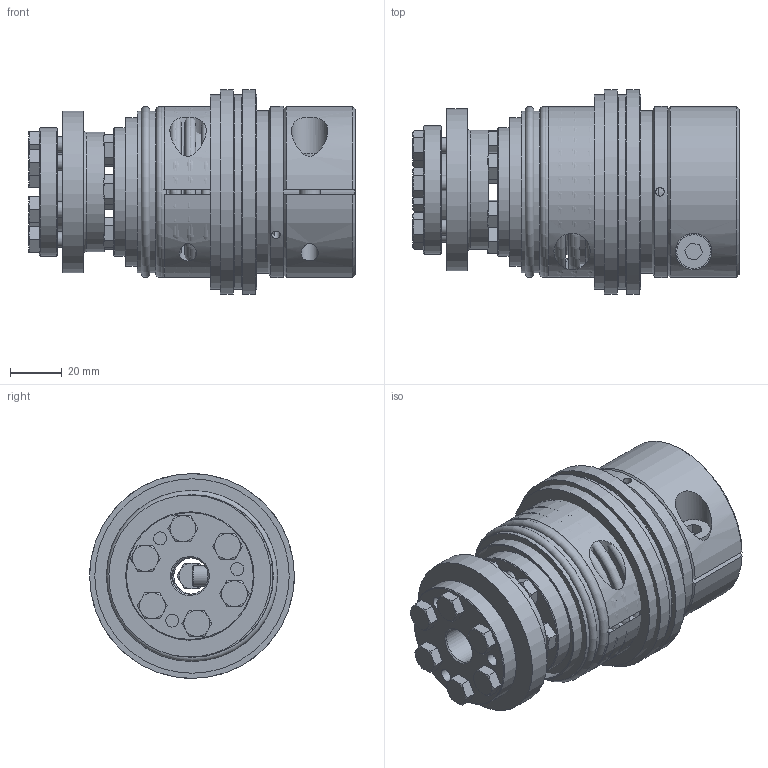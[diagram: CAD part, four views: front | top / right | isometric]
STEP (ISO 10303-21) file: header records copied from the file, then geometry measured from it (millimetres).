
FILE_DESCRIPTION( ( 'Unknown' ), '1' );
FILE_NAME( 'C:/Dokumente und Einstellungen/SKarpstein/Desktop/Korrigierte 3D Modelle/KBK-B-IK/KBK-BIK-60-97.stp', 'Unknown', ( 'Unknown' ), ( 'Unknown' ), 'XStep 1.0', 'Unknown', ' ' );
FILE_SCHEMA( ( 'automotive_design' ) );
Length unit declared in the file: millimetre
Products named in the file (13): Assem1; Assem2; Assem3; Zylinderschraube DIN 912_4; BA60_Standard_2; Hex Screw GradeC_DIN_ISO 4018 - M6 x 20-NN_2; KB60_Standard_0; Stellring 60; Druckring 60; KBK L-K-60 Grundkörper; Klemmnabe 60; Flansch BK60; BK60_Standard_0
Bounding box: 125.76 x 79 x 79 mm (x, y, z)
Volume: 552535.2 mm3; surface area: 250954.6 mm2
Topology: 34 solids, 34 shells, 576 faces, 1199 edges, 766 vertices
Faces by surface type: plane 247, cone 147, cylinder 143, torus 39
Full cylindrical faces by diameter (mm): 3.242 x6, 4 x6, 5 x9, 6 x31, 6.6 x18, 6.647 x2, 8 x3, 8.5 x2, 13 x3, 14 x5, 15 x2, 30.2 x3, 32 x2, 33 x2, 35 x4, 42 x2, 46 x7, 46.5 x2, 47 x2, 49.5 x3, 56.3 x4, 57.3 x4, 61.3 x2, 62.5 x3, 66 x2, 75 x4, 79 x2
Entity records: 4872 total; most frequent: CARTESIAN_POINT 1173, DIRECTION 754, ORIENTED_EDGE 486, AXIS2_PLACEMENT_3D 354, EDGE_LOOP 344, EDGE_CURVE 243, FACE_OUTER_BOUND 241, VERTEX_POINT 211
